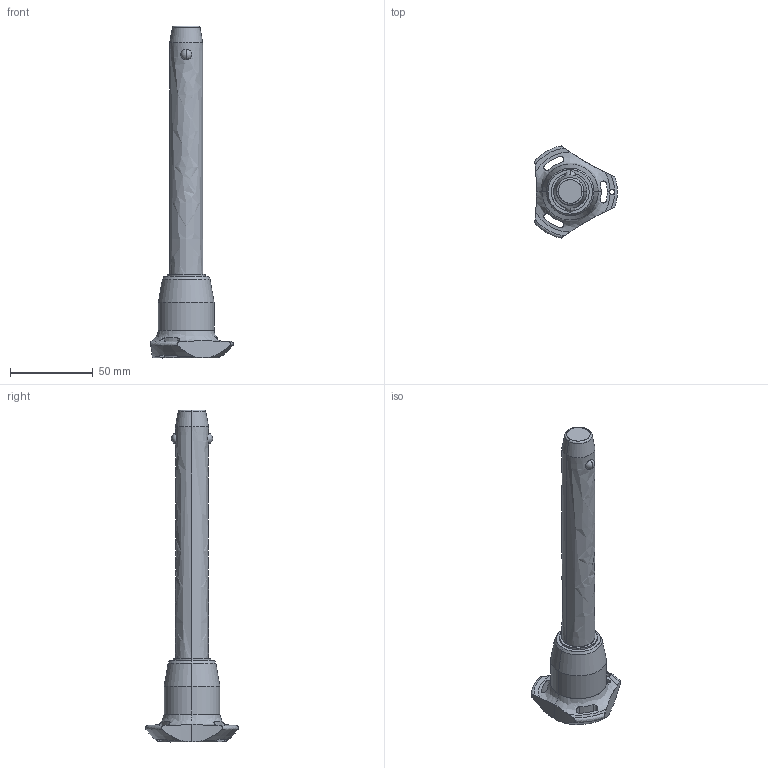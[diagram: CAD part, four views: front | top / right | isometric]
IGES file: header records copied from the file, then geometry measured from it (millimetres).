
Start section: SolidWorks IGES file using analytic representation for surfaces
Global section: file name: C:\Users\ianosborn\Desktop\QR1724_v2\QR1724_v2_20251112_IGES\QR1724.M20-130-S.igs; native system: SolidWorks 2019; preprocessor: SolidWorks 2019; author: IanOsborn; date: 251112.130928; units: millimetre
Bounding box: 50.03 x 56.02 x 201.2 mm (x, y, z)
Surface area: 19135.4 mm2 (no closed solid volume)
Topology: 0 solids, 0 shells, 65 faces, 1310 edges, 1306 vertices
Faces by surface type: revolution 50, bspline 15
